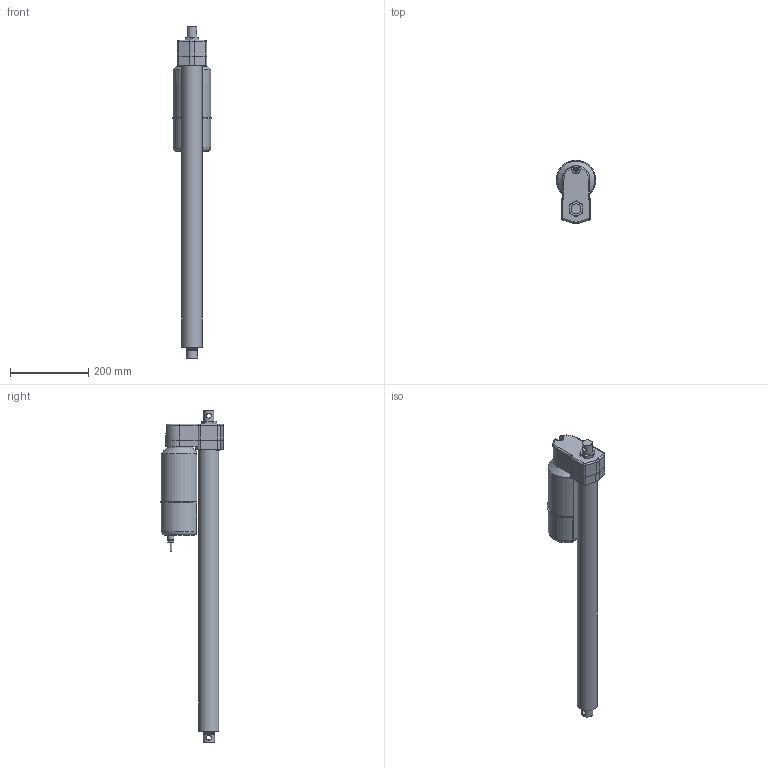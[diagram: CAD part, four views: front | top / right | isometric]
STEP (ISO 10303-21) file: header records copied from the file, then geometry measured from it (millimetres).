
FILE_DESCRIPTION (( 'STEP AP214' ), '1' );
FILE_NAME ('A42-05A5-24M0N-tollo.step', '2020-04-05T12:03:20', ( '' ), ( '' ), 'SwSTEP 2.0', 'SolidWorks 2010', '' );
FILE_SCHEMA (( 'AUTOMOTIVE_DESIGN' ));
Length unit declared in the file: millimetre
Products named in the file (7): Electrak-LA5-Motor-A42-05A5-24M0N-tollo_Electrak-LA5-Motor-A42-05A5-24M0N-tollo; Electrak-LA5-Rear-A42-05A5-24M0N-tollo_Electrak-LA5-Rear-A42-05A5-24M0N-tollo; Electrak-LA5-Tube-A42-05A5-24M0N-tollo_Electrak-LA5-Tube-A42-05A5-24M0N-tollo; Electrak-LA5-Rod-A42-05A5-24M0N-tollo_Electrak-LA5-Rod-A42-05A5-24M0N-tollo; Screw-MFX-H-M5-A42-05A5-24M0N-tollo_Screw-MFX-H-M5-A42-05A5-24M0N-tollo; Screw-M6S-M5-A42-05A5-24M0N-tollo_Screw-M6S-M5-A42-05A5-24M0N-tollo; A42-05A5-24M0N-tollo
Assembly tree (9 placements, depth 2):
  A42-05A5-24M0N-tollo
    Electrak-LA5-Rear-A42-05A5-24M0N-tollo_Electrak-LA5-Rear-A42-05A5-24M0N-tollo
    Screw-M6S-M5-A42-05A5-24M0N-tollo_Screw-M6S-M5-A42-05A5-24M0N-tollo  x4
    Electrak-LA5-Tube-A42-05A5-24M0N-tollo_Electrak-LA5-Tube-A42-05A5-24M0N-tollo
    Electrak-LA5-Rod-A42-05A5-24M0N-tollo_Electrak-LA5-Rod-A42-05A5-24M0N-tollo
    Screw-MFX-H-M5-A42-05A5-24M0N-tollo_Screw-MFX-H-M5-A42-05A5-24M0N-tollo
    Electrak-LA5-Motor-A42-05A5-24M0N-tollo_Electrak-LA5-Motor-A42-05A5-24M0N-tollo
Bounding box: 100.99 x 162.5 x 847 mm (x, y, z)
Volume: 3630419.7 mm3; surface area: 391695.2 mm2
Topology: 9 solids, 9 shells, 238 faces, 549 edges, 347 vertices
Faces by surface type: plane 95, cylinder 92, cone 31, torus 15, bspline 3, sphere 2
Full cylindrical faces by diameter (mm): 4 x1, 4.126 x5, 4.8 x2, 5 x13, 7.878 x4, 9.3 x1, 10 x1, 12.8 x2, 15 x2, 25.4 x1, 28.6 x4, 51.3 x1, 68 x1
Entity records: 5776 total; most frequent: CARTESIAN_POINT 1721, DIRECTION 806, ORIENTED_EDGE 666, AXIS2_PLACEMENT_3D 339, EDGE_CURVE 333, EDGE_LOOP 245, VERTEX_POINT 236, FACE_OUTER_BOUND 198
